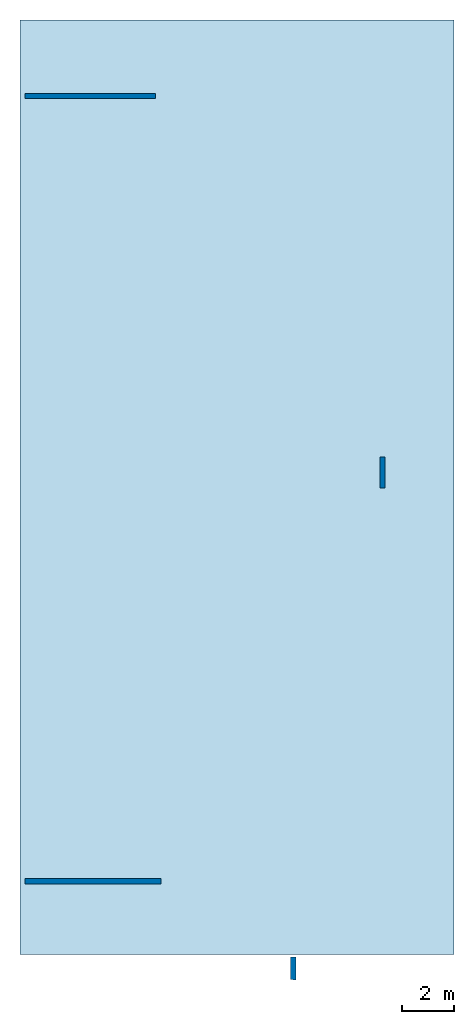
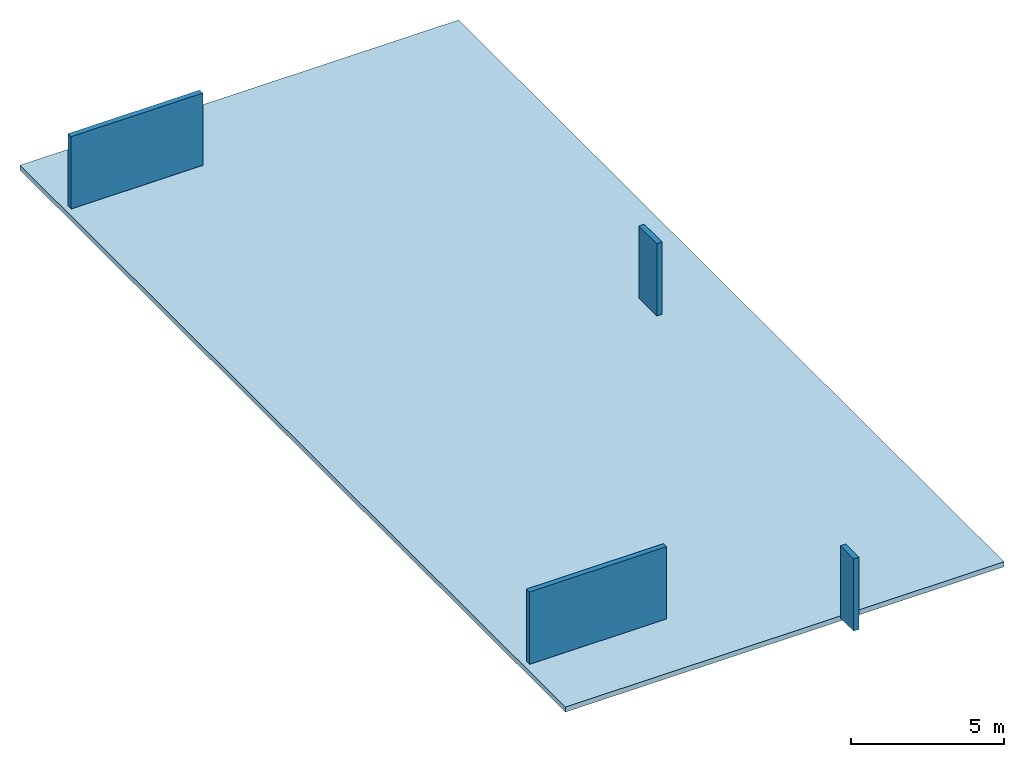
# One storey: 4 walls, 1 slab.
"""IFC2X3 building model written with IfcOpenShell, lengths in metres."""

import ifcopenshell
import ifcopenshell.guid

model = None  # the IFC model being written
_history = None  # IfcOwnerHistory: only IFC2X3 demands one
_inside = {}  # id of a spatial element -> (the spatial element, [elements in it])
_under = {}  # id of a project, library or spatial element -> (it, [spatial elements below it])
_declared = {}  # id of a project -> (the project, [libraries it declares])
_typed = {}  # id of a type object -> (the type object, [elements of that type])
_made_of = {}  # id of a material, layer set ... -> (it, [elements and type objects made of it])


def new_model(schema):
    """Start an empty IFC model of exactly this schema.

    Asked for "IFC4X3", IfcOpenShell would pick the latest addendum, in which some entities
    have other attributes; the version numbers below select the first issue.
    IFC2X3 requires an IfcOwnerHistory on every rooted entity: one is made here for all.
    """
    global model, _history
    if schema == "IFC4X3":
        model = ifcopenshell.file(schema_version=(4, 3, 0, 0))
    else:
        model = ifcopenshell.file(schema=schema)
    _inside.clear()
    _under.clear()
    _declared.clear()
    _typed.clear()
    _made_of.clear()
    _history = None
    if model.schema == "IFC2X3":
        org = make("IfcOrganization", Name="unknown")
        user = make(
            "IfcPersonAndOrganization",
            ThePerson=make("IfcPerson", FamilyName="unknown"),
            TheOrganization=org,
        )
        app = make(
            "IfcApplication",
            ApplicationDeveloper=org,
            Version="unknown",
            ApplicationFullName="unknown",
            ApplicationIdentifier="unknown",
        )
        _history = make(
            "IfcOwnerHistory",
            OwningUser=user,
            OwningApplication=app,
            ChangeAction="ADDED",
            CreationDate=0,
        )
    return model


def make(cls, **values):
    """One entity of the class cls with the attributes given. An attribute that is None is left unset."""
    return model.create_entity(
        cls, **{name: value for name, value in values.items() if value is not None}
    )


def entity(cls, *values):
    """Any entity or typed value of the class cls, its attributes in the order of the schema. None: left unset."""
    e = model.create_entity(cls)
    for i, value in enumerate(values):
        if value is not None:
            e[i] = value
    return e


def rooted(cls, **values):
    """An entity with a GlobalId (a new one), such as an element, a storey or a relation."""
    return make(cls, GlobalId=ifcopenshell.guid.new(), OwnerHistory=_history, **values)


def si_unit(unit_type, name, prefix=None):
    """IfcSIUnit, for example si_unit("LENGTHUNIT", "METRE", prefix="MILLI")."""
    return make("IfcSIUnit", UnitType=unit_type, Prefix=prefix, Name=name)


def converted_unit(unit_type, name, factor, base, dimensions=None, offset=None):
    """IfcConversionBasedUnit, such as the inch: factor (a typed value) times the base unit."""
    return make(
        "IfcConversionBasedUnit"
        if offset is None
        else "IfcConversionBasedUnitWithOffset",
        ConversionOffset=offset,
        Dimensions=None
        if dimensions is None
        else entity("IfcDimensionalExponents", *dimensions),
        UnitType=unit_type,
        Name=name,
        ConversionFactor=make(
            "IfcMeasureWithUnit", ValueComponent=factor, UnitComponent=base
        ),
    )


def derived_unit(unit_type, elements):
    """IfcDerivedUnit: a product of units, each with its exponent."""
    return make(
        "IfcDerivedUnit",
        Elements=[
            make("IfcDerivedUnitElement", Unit=unit, Exponent=power)
            for unit, power in elements
        ],
        UnitType=unit_type,
    )


def assignment(units):
    """IfcUnitAssignment: the units of a project."""
    return None if units is None else make("IfcUnitAssignment", Units=units)


def point(xyz):
    """IfcCartesianPoint."""
    return None if xyz is None else make("IfcCartesianPoint", Coordinates=xyz)


def direction(xyz):
    """IfcDirection."""
    return None if xyz is None else make("IfcDirection", DirectionRatios=xyz)


def frame(location, z_axis=None, x_axis=None):
    """IfcAxis2Placement3D, a coordinate frame: its origin and axes. An axis left out is left unset."""
    return make(
        "IfcAxis2Placement3D",
        Location=point(location),
        Axis=direction(z_axis),
        RefDirection=direction(x_axis),
    )


def frame_2d(location, x_axis=None):
    """IfcAxis2Placement2D, a coordinate frame in the plane: its origin and x axis."""
    return make(
        "IfcAxis2Placement2D", Location=point(location), RefDirection=direction(x_axis)
    )


def origin():
    """The frame at (0, 0, 0) with its axes left unset."""
    return frame((0.0, 0.0, 0.0))


def origin_2d_with_axis():
    """The frame at (0, 0) in the plane with the x axis (1, 0) written out."""
    return frame_2d((0.0, 0.0), x_axis=(1.0, 0.0))


def place(relative_to, where):
    """IfcLocalPlacement: puts the frame where relative to a parent placement (None: the world)."""
    return make(
        "IfcLocalPlacement", PlacementRelTo=relative_to, RelativePlacement=where
    )


def context(
    kind, dimensions, precision=None, world=None, true_north=None, identifier=None
):
    """IfcGeometricRepresentationContext, for example the 3D "Model" context."""
    return make(
        "IfcGeometricRepresentationContext",
        ContextIdentifier=identifier,
        ContextType=kind,
        CoordinateSpaceDimension=dimensions,
        Precision=precision,
        WorldCoordinateSystem=world,
        TrueNorth=true_north,
    )


def subcontext(parent, identifier, kind, view, scale=None):
    """IfcGeometricRepresentationSubContext, for example "Body" below "Model"."""
    return make(
        "IfcGeometricRepresentationSubContext",
        ContextIdentifier=identifier,
        ContextType=kind,
        ParentContext=parent,
        TargetScale=scale,
        TargetView=view,
    )


def project(units=None, contexts=None):
    """IfcProject with its units and contexts."""
    return rooted(
        "IfcProject",
        Name="project",
        RepresentationContexts=contexts,
        UnitsInContext=assignment(units),
    )


def spatial(cls, under=None, at=None, **own):
    """A site, building, storey or space (cls), placed at a placement, below another one or the project."""
    s = rooted(cls, ObjectPlacement=at, **own)
    if under is not None:
        _under.setdefault(under.id(), (under, []))[1].append(s)
    return s


def polyline(points):
    """IfcPolyline through the points."""
    return make("IfcPolyline", Points=[point(p) for p in points])


def profile(cls, at=None, kind="AREA", **sizes):
    """A parametric profile (cls). Its sizes go by their IFC names, for example OverallWidth=200.0."""
    return make(cls, ProfileType=kind, Position=at, **sizes)


def rectangle(**sizes):
    """IfcRectangleProfileDef."""
    return profile("IfcRectangleProfileDef", **sizes)


def outline(outer, holes=None, kind="AREA"):
    """IfcArbitraryClosedProfileDef: a profile drawn as a closed curve; with holes, ...WithVoids."""
    if holes is None:
        return make("IfcArbitraryClosedProfileDef", ProfileType=kind, OuterCurve=outer)
    return make(
        "IfcArbitraryProfileDefWithVoids",
        ProfileType=kind,
        OuterCurve=outer,
        InnerCurves=holes,
    )


def extrude(swept, where, along, depth):
    """IfcExtrudedAreaSolid: the profile swept, set in the frame where, extruded along a direction by depth."""
    return make(
        "IfcExtrudedAreaSolid",
        SweptArea=swept,
        Position=where,
        ExtrudedDirection=direction(along),
        Depth=depth,
    )


def shape(context_of_items, identifier, shape_type, items):
    """IfcShapeRepresentation: the items that make up one representation, for example the "Body"."""
    return make(
        "IfcShapeRepresentation",
        ContextOfItems=context_of_items,
        RepresentationIdentifier=identifier,
        RepresentationType=shape_type,
        Items=items,
    )


def material(Name=None, Category=None):
    """IfcMaterial."""
    return make("IfcMaterial", Name=Name, Category=Category)


def layer(
    of_material, thickness, ventilated=None, Name=None, Category=None, Priority=None
):
    """IfcMaterialLayer: one layer of a wall or slab, of a material (None: an air gap)."""
    return make(
        "IfcMaterialLayer",
        Material=of_material,
        LayerThickness=thickness,
        IsVentilated=ventilated,
        Name=Name,
        Category=Category,
        Priority=Priority,
    )


def layer_set(layers, Name=None):
    """IfcMaterialLayerSet."""
    return make("IfcMaterialLayerSet", MaterialLayers=layers, LayerSetName=Name)


def layer_usage(for_layer_set, set_direction, sense, offset, extent=None):
    """IfcMaterialLayerSetUsage: how a layer set lies in its element."""
    return make(
        "IfcMaterialLayerSetUsage",
        ForLayerSet=for_layer_set,
        LayerSetDirection=set_direction,
        DirectionSense=sense,
        OffsetFromReferenceLine=offset,
        ReferenceExtent=extent,
    )


def made_of(thing, what):
    """Note that an element or type object is made of a material, layer set ...; save() writes the relation."""
    if what is not None:
        _made_of.setdefault(what.id(), (what, []))[1].append(thing)
    return thing


def type_object(cls, material=None, **own):
    """A type object (cls), such as IfcWallType, which elements share."""
    return made_of(rooted(cls, **own), material)


def element(
    cls,
    number,
    at=None,
    inside=None,
    cuts=None,
    type_object=None,
    material=None,
    context=None,
    identifier="Body",
    shape_type=None,
    held_by="IfcProductDefinitionShape",
    body=None,
    shapes=None,
    **own,
):
    """One element of the class cls, such as IfcWall. Its Tag is "e" and its number.

    at: its placement. inside: the storey or other place that contains it. cuts: it is an
    opening in that element (IfcRelVoidsElement). A single representation is given by context,
    identifier, shape_type and body (its items); several are given by shapes. held_by: the class
    of the entity that holds the representations. save() writes the other relations.
    """
    e = rooted(cls, Tag="e%d" % number, ObjectPlacement=at, **own)
    if body is not None:
        shapes = [shape(context, identifier, shape_type, body)]
    if shapes is not None:
        e.Representation = make(held_by, Representations=shapes)
    if inside is not None:
        _inside.setdefault(inside.id(), (inside, []))[1].append(e)
    if cuts is not None:
        rooted(
            "IfcRelVoidsElement", RelatingBuildingElement=cuts, RelatedOpeningElement=e
        )
    if type_object is not None:
        _typed.setdefault(type_object.id(), (type_object, []))[1].append(e)
    return made_of(e, material)


def aggregate(whole, parts):
    """IfcRelAggregates: a whole, such as a stair, and the parts it consists of."""
    return rooted("IfcRelAggregates", RelatingObject=whole, RelatedObjects=parts)


def save(model, path):
    """Write the relations noted so far, then the file.

    IfcRelAggregates (storeys below a building ...), IfcRelContainedInSpatialStructure (elements
    in a storey), IfcRelDefinesByType, IfcRelAssociatesMaterial and IfcRelDeclares: one each for
    every whole, place, type object, material and project.
    """
    for whole, parts in _under.values():
        aggregate(whole, parts)
    for where, things in _inside.values():
        rooted(
            "IfcRelContainedInSpatialStructure",
            RelatedElements=things,
            RelatingStructure=where,
        )
    for kind, things in _typed.values():
        rooted("IfcRelDefinesByType", RelatedObjects=things, RelatingType=kind)
    for what, things in _made_of.values():
        rooted("IfcRelAssociatesMaterial", RelatedObjects=things, RelatingMaterial=what)
    for by, libraries in _declared.values():
        rooted("IfcRelDeclares", RelatingContext=by, RelatedDefinitions=libraries)
    model.write(path)


model = new_model("IFC2X3")

# Units and contexts
model_context = context("Model", 3, precision=1e-05, world=origin(), true_north=direction((6.12303176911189e-17, 1.0)))
context_of_model = context(None, 3, precision=1e-05, world=origin(), true_north=direction((6.12303176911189e-17, 1.0)))
body_context = subcontext(model_context, "Body", "Model", "MODEL_VIEW")
ifc_project = project(units=[si_unit("LENGTHUNIT", "METRE"), si_unit("AREAUNIT", "SQUARE_METRE"), si_unit("VOLUMEUNIT", "CUBIC_METRE"), converted_unit("PLANEANGLEUNIT", "DEGREE", entity("IfcRatioMeasure", 0.0174532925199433), si_unit("PLANEANGLEUNIT", "RADIAN"), dimensions=[0, 0, 0, 0, 0, 0, 0]), si_unit("MASSUNIT", "GRAM", prefix="KILO"), si_unit("TIMEUNIT", "SECOND"), si_unit("FREQUENCYUNIT", "HERTZ"), si_unit("THERMODYNAMICTEMPERATUREUNIT", "DEGREE_CELSIUS"), derived_unit("THERMALTRANSMITTANCEUNIT", [(si_unit("MASSUNIT", "GRAM", prefix="KILO"), 1), (si_unit("THERMODYNAMICTEMPERATUREUNIT", "KELVIN"), -1), (si_unit("TIMEUNIT", "SECOND"), -3)]), derived_unit("VOLUMETRICFLOWRATEUNIT", [(si_unit("LENGTHUNIT", "METRE"), 3), (si_unit("TIMEUNIT", "SECOND"), -1)]), si_unit("ELECTRICCURRENTUNIT", "AMPERE"), si_unit("ELECTRICVOLTAGEUNIT", "VOLT"), si_unit("POWERUNIT", "WATT"), si_unit("FORCEUNIT", "NEWTON", prefix="KILO"), si_unit("ILLUMINANCEUNIT", "LUX"), si_unit("LUMINOUSFLUXUNIT", "LUMEN"), si_unit("LUMINOUSINTENSITYUNIT", "CANDELA"), si_unit("PRESSUREUNIT", "PASCAL")], contexts=[model_context, context_of_model])

# Site, building, storey
site_placement = place(None, origin())
site = spatial("IfcSite", under=ifc_project, at=site_placement, Name="Default", CompositionType="ELEMENT")
building_placement = place(site_placement, origin())
building = spatial("IfcBuilding", under=site, at=building_placement, CompositionType="ELEMENT")
storey_placement = place(building_placement, frame((0.0, 0.0, -2.89)))
storey = spatial("IfcBuildingStorey", under=building, at=storey_placement, Name="Dallage", CompositionType="ELEMENT", Elevation=-2.89)

# Slab
ifc_material = material(Name="Béton C25/30")
ifc_layer_1 = layer(ifc_material, 0.2)
ifc_layer_set_1 = layer_set([ifc_layer_1], Name="Sol:Dallage 20 cm")
ifc_layer_usage_1 = layer_usage(ifc_layer_set_1, "AXIS3", "POSITIVE", 0.0)
slab_placement = place(storey_placement, origin())
element("IfcSlab", 1, at=slab_placement, inside=storey, material=ifc_layer_usage_1, Name="Sol:Dallage 20 cm", ObjectType="Sol:Dallage 20 cm", PredefinedType="FLOOR", context=body_context, shape_type="SweptSolid", body=[
    extrude(rectangle(XDim=35.7100000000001, YDim=16.5799999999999, at=origin_2d_with_axis()), frame((-2.46163901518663, -8.43514661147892, 0.0), z_axis=(0.0, 0.0, -1.0), x_axis=(0.0, 1.0, 0.0)), (0.0, 0.0, 1.0), 0.2),
])

# Walls
ifc_layer_2 = layer(ifc_material, 0.2)
ifc_layer_set_2 = layer_set([ifc_layer_2], Name="Mur de base:Générique - 200 mm")
ifc_layer_usage_2 = layer_usage(ifc_layer_set_2, "AXIS2", "NEGATIVE", 0.1)
wall_type = type_object("IfcWallType", Name="Mur de base:Générique - 200 mm", PredefinedType="STANDARD", material=ifc_layer_set_2)
wall_1_placement = place(storey_placement, frame((-10.5516390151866, 6.51985338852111, 0.0)))
element("IfcWallStandardCase", 2, at=wall_1_placement, inside=storey, type_object=wall_type, material=ifc_layer_usage_2, Name="Mur de base:Générique - 200 mm", ObjectType="Mur de base:Générique - 200 mm:1740", context=body_context, shape_type="SweptSolid", body=[
    extrude(rectangle(XDim=4.98, YDim=0.2, at=frame_2d((2.49, -3.12250225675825e-16), x_axis=(-1.0, 0.0))), origin(), (0.0, 0.0, 1.0), 2.89),
])
ifc_layer_usage_3 = layer_usage(ifc_layer_set_2, "AXIS2", "NEGATIVE", 0.1)
wall_2_placement = place(storey_placement, frame((3.09836098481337, -7.28564661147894, 0.0), z_axis=(0.0, 0.0, 1.0), x_axis=(0.0, -1.0, 0.0)))
element("IfcWallStandardCase", 3, at=wall_2_placement, inside=storey, type_object=wall_type, material=ifc_layer_usage_3, Name="Mur de base:Générique - 200 mm", ObjectType="Mur de base:Générique - 200 mm:1740", context=body_context, shape_type="SweptSolid", body=[
    extrude(rectangle(XDim=1.1705, YDim=0.2, at=frame_2d((0.58525, -8.32667268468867e-17), x_axis=(-1.0, 0.0))), origin(), (0.0, 0.0, 1.0), 2.89),
])
ifc_layer_usage_4 = layer_usage(ifc_layer_set_2, "AXIS2", "NEGATIVE", 0.1)
wall_3_placement = place(storey_placement, frame((-0.311639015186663, -26.3901466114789, 0.0), z_axis=(0.0, 0.0, 1.0), x_axis=(0.0, -1.0, 0.0)))
element("IfcWallStandardCase", 4, at=wall_3_placement, inside=storey, type_object=wall_type, material=ifc_layer_usage_4, Name="Mur de base:Générique - 200 mm", ObjectType="Mur de base:Générique - 200 mm:1740", context=body_context, shape_type="SweptSolid", body=[
    extrude(outline(polyline([(0.860866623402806, -0.1), (0.878176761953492, 0.1), (0.0, 0.1), (0.0, -0.1), (0.860866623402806, -0.1)])), origin(), (0.0, 0.0, 1.0), 2.89),
])
ifc_layer_usage_5 = layer_usage(ifc_layer_set_2, "AXIS2", "NEGATIVE", 0.1)
wall_4_placement = place(storey_placement, frame((-10.5516390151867, -23.4901466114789, 0.0)))
element("IfcWallStandardCase", 5, at=wall_4_placement, inside=storey, type_object=wall_type, material=ifc_layer_usage_5, Name="Mur de base:Générique - 200 mm", ObjectType="Mur de base:Générique - 200 mm:1740", context=body_context, shape_type="SweptSolid", body=[
    extrude(rectangle(XDim=5.18, YDim=0.199999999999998, at=frame_2d((2.59, 0.0), x_axis=(-1.0, 0.0))), origin(), (0.0, 0.0, 1.0), 2.89),
])

save(model, "model.ifc")
